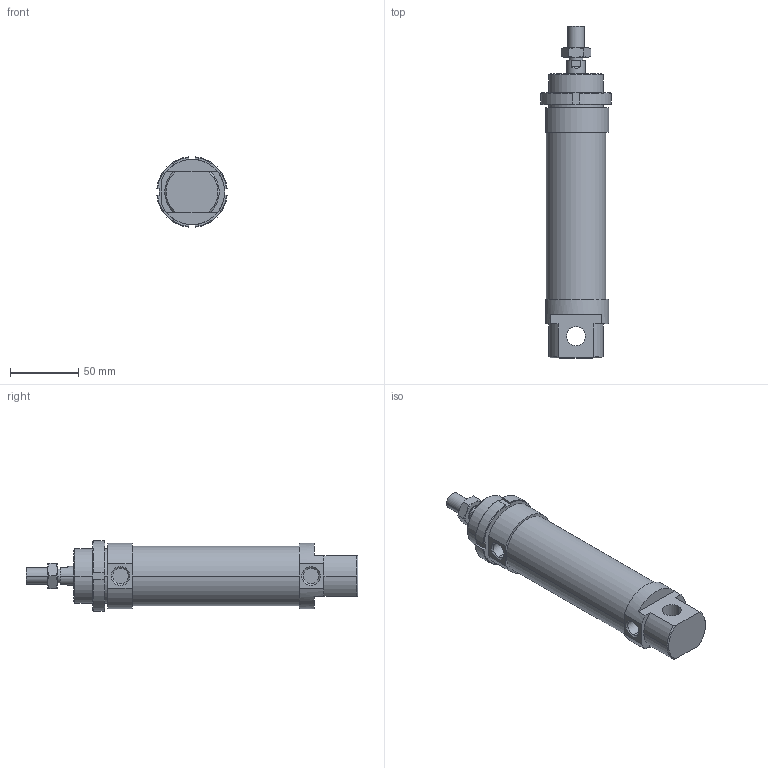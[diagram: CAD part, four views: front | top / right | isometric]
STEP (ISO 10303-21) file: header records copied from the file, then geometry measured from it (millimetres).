
FILE_DESCRIPTION((''),'2;1');
FILE_NAME('I:\DOC-EDP\Lib-3d\1200\CILINDRI\1260\1260_40_0080.stp','2003-04-02T15:08:09',('maffial1'),(''),'Autodesk Inventor (R) 6.0','Autodesk Inventor (R) 6.0','');
FILE_SCHEMA(('AUTOMOTIVE_DESIGN { 1 0 10303 214 1 1 1 1 }'));
Length unit declared in the file: millimetre
Products named in the file (5): 1260_40_0080; S1260_40_80; 1200_40_05; 1200_40_06; C1260_40_80
Assembly tree (4 placements, depth 2):
  1260_40_0080
    S1260_40_80
    1200_40_05
    1200_40_06
    C1260_40_80
Bounding box: 51.76 x 244 x 51.76 mm (x, y, z)
Volume: 312916.8 mm3; surface area: 52361.8 mm2
Topology: 4 solids, 4 shells, 122 faces, 286 edges, 180 vertices
Faces by surface type: plane 44, cone 32, cylinder 26, bspline 20
Entity records: 3831 total; most frequent: CARTESIAN_POINT 997, DIRECTION 582, ORIENTED_EDGE 572, EDGE_CURVE 286, AXIS2_PLACEMENT_3D 229, VERTEX_POINT 180, EDGE_LOOP 136, VECTOR 124
